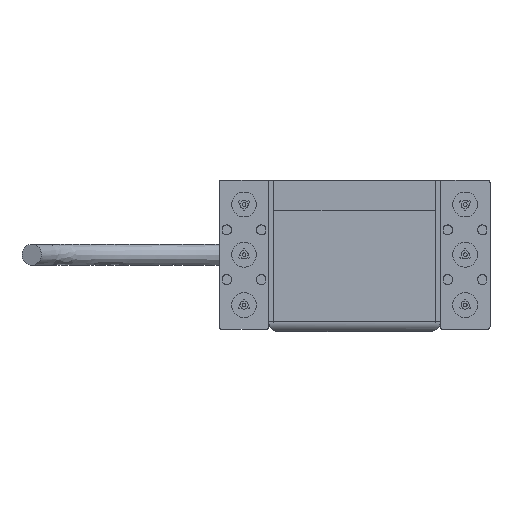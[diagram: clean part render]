
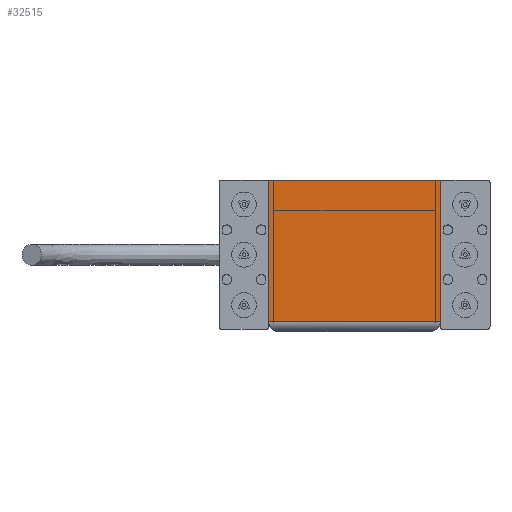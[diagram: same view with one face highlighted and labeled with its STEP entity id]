
A CAD part, front view. The second image highlights one B-rep face of the part: STEP entity #32515.
In plain terms, the highlighted planar face has unit normal (0, -1, 0).
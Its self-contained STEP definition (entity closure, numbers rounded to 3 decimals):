
#1260=PLANE('',#35855);
#2731=LINE('',#53176,#5883);
#2736=LINE('',#53186,#5888);
#2739=LINE('',#53192,#5891);
#2740=LINE('',#53193,#5892);
#5883=VECTOR('',#40873,10.);
#5888=VECTOR('',#40886,10.);
#5891=VECTOR('',#40891,10.);
#5892=VECTOR('',#40892,10.);
#9706=FACE_OUTER_BOUND('',#11272,.T.);
#11272=EDGE_LOOP('',(#25853,#25854,#25855,#25856));
#15575=VERTEX_POINT('',#53173);
#15576=VERTEX_POINT('',#53175);
#15577=VERTEX_POINT('',#53185);
#15579=VERTEX_POINT('',#53191);
#20114=EDGE_CURVE('',#15575,#15576,#2731,.T.);
#20120=EDGE_CURVE('',#15576,#15577,#2736,.T.);
#20123=EDGE_CURVE('',#15575,#15579,#2739,.T.);
#20124=EDGE_CURVE('',#15577,#15579,#2740,.T.);
#25853=ORIENTED_EDGE('',*,*,#20114,.F.);
#25854=ORIENTED_EDGE('',*,*,#20123,.T.);
#25855=ORIENTED_EDGE('',*,*,#20124,.F.);
#25856=ORIENTED_EDGE('',*,*,#20120,.F.);
#32515=ADVANCED_FACE('',(#9706),#1260,.T.);
#35855=AXIS2_PLACEMENT_3D('',#53190,#40889,#40890);
#40873=DIRECTION('',(-1.,0.,0.));
#40886=DIRECTION('',(0.,0.,1.));
#40889=DIRECTION('center_axis',(0.,-1.,0.));
#40890=DIRECTION('ref_axis',(1.,0.,0.));
#40891=DIRECTION('',(0.,0.,1.));
#40892=DIRECTION('',(1.,0.,0.));
#53173=CARTESIAN_POINT('',(34.5,-208.,4.));
#53175=CARTESIAN_POINT('',(-34.5,-208.,4.));
#53176=CARTESIAN_POINT('',(-17.25,-208.,4.));
#53185=CARTESIAN_POINT('',(-34.5,-208.,61.));
#53186=CARTESIAN_POINT('',(-34.5,-208.,0.));
#53190=CARTESIAN_POINT('Origin',(-34.5,-208.,0.));
#53191=CARTESIAN_POINT('',(34.5,-208.,61.));
#53192=CARTESIAN_POINT('',(34.5,-208.,0.));
#53193=CARTESIAN_POINT('',(34.5,-208.,61.));
